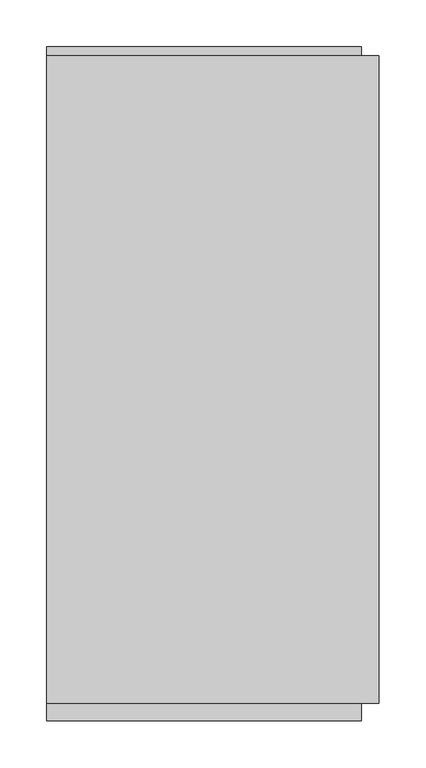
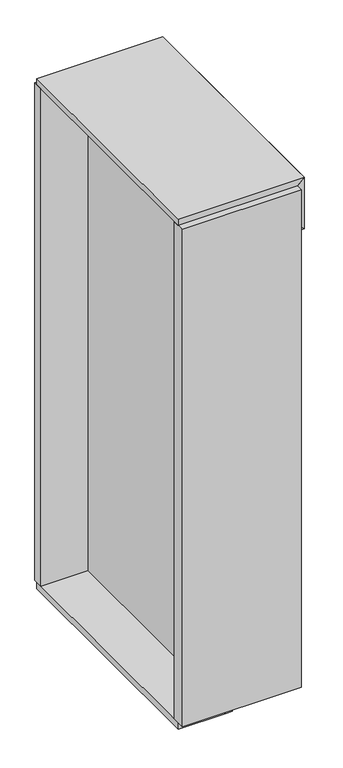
"""IFC4 building model written with IfcOpenShell, lengths in millimetres: proxy geometry, BASYS^OFFICE 2_60 WIRE WALL-ACCESS RIGHT."""

from ifc_helpers import new_model, si_unit, frame, origin, place, context, project, spatial, polyline, outline, extrude, source, transform, mapped, element, save


def generic_models_9e779cf5(model_context):
    return source(origin(), model_context, "Body", "SweptSolid", [
        extrude(outline(polyline([(133.35, 692.15), (152.4, 692.15), (152.4, 0.0), (133.35, 0.0), (133.35, 692.15)])), frame((0.0, 0.0, -1524.0), z_axis=(0.0, 0.0, 1.0), x_axis=(1.0, 0.0, 0.0)), (0.0, 0.0, 1.0), 1370.0125),
        extrude(outline(polyline([(336.55, 19.05), (336.55, -19.05), (0.0, -19.05), (0.0, 19.05), (336.55, 19.05)])), frame((0.0, 0.0, -1504.95), z_axis=(0.0, 0.0, 1.0), x_axis=(1.0, 0.0, 0.0)), (0.0, 0.0, 1.0), 1485.9),
        extrude(outline(polyline([(-153.9875, 355.6), (-134.9375, 336.55), (-134.9375, 133.35), (-153.9875, 133.35), (-153.9875, 355.6)])), frame((0.0, 0.0, 0.0), z_axis=(0.0, 1.0, 0.0), x_axis=(0.0, 0.0, 1.0)), (0.0, 0.0, 1.0), 692.15),
        extrude(outline(polyline([(336.55, 701.675), (336.55, 673.1), (0.0, 673.1), (0.0, 701.675), (336.55, 701.675)])), frame((0.0, 0.0, -1504.95), z_axis=(0.0, 0.0, 1.0), x_axis=(1.0, 0.0, 0.0)), (0.0, 0.0, 1.0), 1485.9),
        extrude(outline(polyline([(133.35, 347.18625), (133.35, 692.15), (152.4, 692.15), (152.4, 347.18625), (133.35, 347.18625)])), frame((0.0, 0.0, -1521.61875), z_axis=(0.0, 0.0, 1.0), x_axis=(1.0, 0.0, 0.0)), (0.0, 0.0, 1.0), 1214.4375),
        extrude(outline(polyline([(0.0, 0.0), (0.0, 692.15), (133.35, 692.15), (133.35, 0.0), (0.0, 0.0)])), frame((0.0, 0.0, -1524.0), z_axis=(0.0, 0.0, 1.0), x_axis=(1.0, 0.0, 0.0)), (0.0, 0.0, 1.0), 19.05),
        extrude(outline(polyline([(-19.05, 336.55), (0.0, 355.6), (0.0, 0.0), (-19.05, 0.0), (-19.05, 336.55)])), frame((0.0, 0.0, 0.0), z_axis=(0.0, 1.0, 0.0), x_axis=(0.0, 0.0, 1.0)), (0.0, 0.0, 1.0), 692.15),
        extrude(outline(polyline([(0.0, 355.6), (-76.99375, 278.60625), (-153.9875, 355.6), (0.0, 355.6)])), frame((0.0, 0.0, 0.0), z_axis=(0.0, 1.0, 0.0), x_axis=(0.0, 0.0, 1.0)), (0.0, 0.0, 1.0), 692.15),
    ])


if __name__ == "__main__":
    model = new_model("IFC4")
    model_context = context("Model", 3, world=origin())
    ifc_project = project(units=[si_unit("LENGTHUNIT", "METRE", prefix="MILLI")], contexts=[model_context])
    site = spatial("IfcSite", under=ifc_project)
    building = spatial("IfcBuilding", under=site)
    placement = place(None, origin())
    generic_models_shape = generic_models_9e779cf5(model_context)
    element("IfcBuildingElementProxy", 1, Name="BASYS^OFFICE 2_60 WIRE WALL-ACCESS RIGHT", ObjectType="BASYS^OFFICE 2_60 WIRE WALL-ACCESS RIGHT", at=placement, inside=building, context=model_context, shape_type="MappedRepresentation", body=[
        mapped(generic_models_shape, transform((0.0, 0.0, 0.0), x_axis=(1.0, 0.0, 0.0), y_axis=(0.0, 1.0, 0.0), z_axis=(0.0, 0.0, 1.0))),
    ])
    save(model, "model.ifc")
